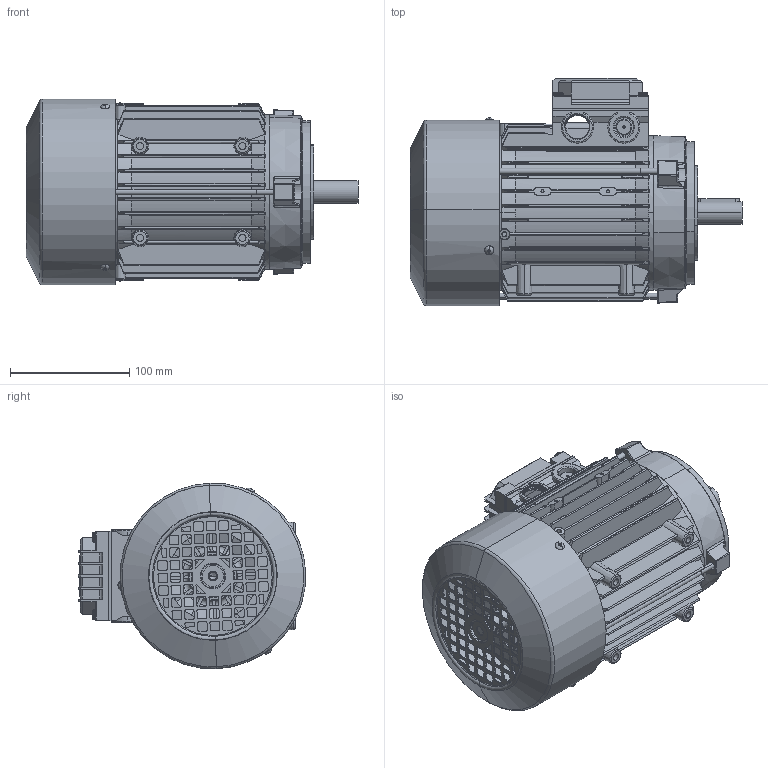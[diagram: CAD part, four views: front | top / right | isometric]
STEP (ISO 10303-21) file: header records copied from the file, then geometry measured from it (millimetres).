
FILE_DESCRIPTION (( 'STEP AP214' ), '1' );
FILE_NAME ('M24DC0011.STEP', '2025-07-25T08:27:50', ( '' ), ( '' ), 'SwSTEP 2.0', 'SolidWorks 2023', '' );
FILE_SCHEMA (( 'AUTOMOTIVE_DESIGN' ));
Length unit declared in the file: millimetre
Products named in the file (13): Carcassa 80 B5; Scudo Lato Comando B3 BA-BM 80 - DCAD0094; Chiavetta 80; M24DC0011; Guarnizione Scatola Singola 63-71-80; Scudo a flangia B14 BA-BM 80 - DCAC0194; Coperchio per Scatola Singola 63-71-80 - DBAN0095; Albero SM 80; Coperchio per Scatola Singola 63-71-80 con viti; Tirante SM 80; Vite per coperchio morsettiera; Vite testa rotonda M3; Cuffia SM 80
Assembly tree (19 placements, depth 3):
  M24DC0011
    Carcassa 80 B5
    Scudo a flangia B14 BA-BM 80 - DCAC0194
    Scudo Lato Comando B3 BA-BM 80 - DCAD0094
    Tirante SM 80  x3
    Albero SM 80
    Chiavetta 80
    Cuffia SM 80
    Vite testa rotonda M3  x3
    Coperchio per Scatola Singola 63-71-80 con viti
      Coperchio per Scatola Singola 63-71-80 - DBAN0095
      Vite per coperchio morsettiera  x4
      Guarnizione Scatola Singola 63-71-80
Bounding box: 278.75 x 190.94 x 155.88 mm (x, y, z)
Volume: 731872.5 mm3; surface area: 510422.5 mm2
Topology: 21 solids, 21 shells, 2754 faces, 7524 edges, 4857 vertices
Faces by surface type: plane 1054, cylinder 925, torus 317, cone 285, bspline 167, sphere 6
Entity records: 95963 total; most frequent: CARTESIAN_POINT 35165, ORIENTED_EDGE 13454, DIRECTION 11695, EDGE_CURVE 6727, AXIS2_PLACEMENT_3D 4408, VERTEX_POINT 4375, LINE 2879, VECTOR 2879
